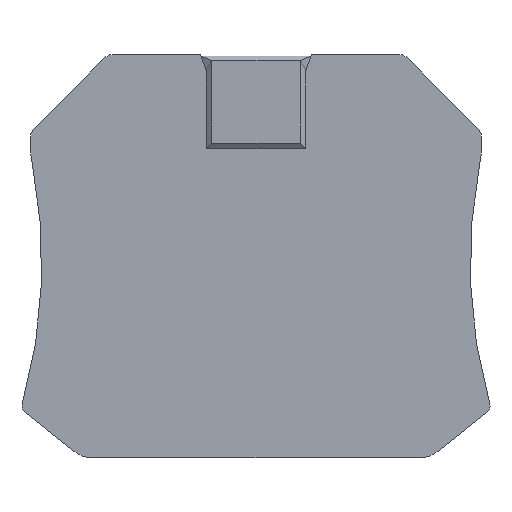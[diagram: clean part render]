
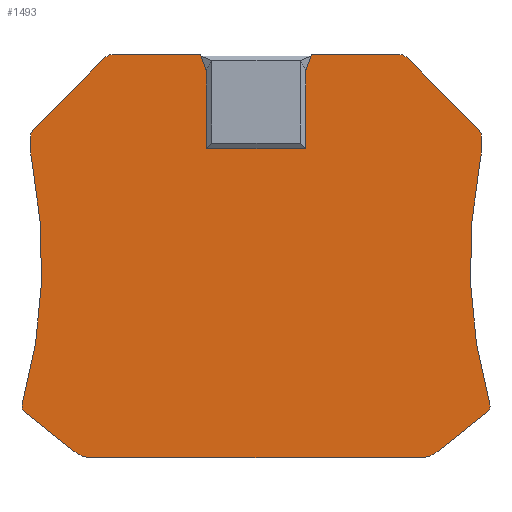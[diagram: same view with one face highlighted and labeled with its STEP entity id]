
A CAD part, front view. The second image highlights one B-rep face of the part: STEP entity #1493.
In plain terms, the highlighted planar face has unit normal (0, -1, 0).
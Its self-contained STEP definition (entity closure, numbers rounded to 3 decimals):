
#35=CARTESIAN_POINT('',(-6.5,-2.2,47.5));
#36=VERTEX_POINT('',#35);
#37=CARTESIAN_POINT('',(-16.786,-2.2,47.5));
#38=VERTEX_POINT('',#37);
#39=CARTESIAN_POINT('',(-6.5,-2.2,47.5));
#40=DIRECTION('',(-1.,0.,0.));
#41=VECTOR('',#40,10.286);
#42=LINE('',#39,#41);
#43=EDGE_CURVE('',#36,#38,#42,.T.);
#75=CARTESIAN_POINT('',(6.5,-2.2,47.5));
#76=VERTEX_POINT('',#75);
#85=CARTESIAN_POINT('',(16.786,-2.2,47.5));
#86=VERTEX_POINT('',#85);
#87=CARTESIAN_POINT('',(6.5,-2.2,47.5));
#88=DIRECTION('',(1.,0.,0.));
#89=VECTOR('',#88,10.286);
#90=LINE('',#87,#89);
#91=EDGE_CURVE('',#76,#86,#90,.T.);
#124=CARTESIAN_POINT('',(-17.493,-2.2,47.207));
#125=VERTEX_POINT('',#124);
#132=CARTESIAN_POINT('',(-16.786,-2.2,46.5));
#133=DIRECTION('',(-0.707,0.,0.707));
#134=DIRECTION('',(0.,1.,0.));
#135=AXIS2_PLACEMENT_3D('',#132,#134,#133);
#136=CIRCLE('',#135,1.);
#137=EDGE_CURVE('',#125,#38,#136,.T.);
#148=CARTESIAN_POINT('',(-26.007,-2.2,38.693));
#149=VERTEX_POINT('',#148);
#165=CARTESIAN_POINT('',(-17.493,-2.2,47.207));
#166=DIRECTION('',(-0.707,0.,-0.707));
#167=VECTOR('',#166,12.041);
#168=LINE('',#165,#167);
#169=EDGE_CURVE('',#125,#149,#168,.T.);
#179=CARTESIAN_POINT('',(-26.3,-2.2,37.986));
#180=VERTEX_POINT('',#179);
#181=CARTESIAN_POINT('',(-25.3,-2.2,37.986));
#182=DIRECTION('',(-0.707,0.,0.707));
#183=DIRECTION('',(0.,-1.,0.));
#184=AXIS2_PLACEMENT_3D('',#181,#183,#182);
#185=CIRCLE('',#184,1.);
#186=EDGE_CURVE('',#149,#180,#185,.T.);
#212=CARTESIAN_POINT('',(-26.3,-2.2,36.798));
#213=VERTEX_POINT('',#212);
#214=CARTESIAN_POINT('',(-26.3,-2.2,36.798));
#215=DIRECTION('',(0.,0.,1.));
#216=VECTOR('',#215,1.188);
#217=LINE('',#214,#216);
#218=EDGE_CURVE('',#213,#180,#217,.T.);
#243=CARTESIAN_POINT('',(-26.11,-2.2,34.856));
#244=VERTEX_POINT('',#243);
#245=CARTESIAN_POINT('',(-16.3,-2.2,36.798));
#246=DIRECTION('',(-1.,0.,0.));
#247=DIRECTION('',(0.,-1.,0.));
#248=AXIS2_PLACEMENT_3D('',#245,#247,#246);
#249=CIRCLE('',#248,10.);
#250=EDGE_CURVE('',#213,#244,#249,.T.);
#277=CARTESIAN_POINT('',(-27.252,-2.2,6.808));
#278=VERTEX_POINT('',#277);
#279=CARTESIAN_POINT('',(-84.968,-2.2,23.206));
#280=DIRECTION('',(0.962,0.,-0.273));
#281=DIRECTION('',(0.,-1.,0.));
#282=AXIS2_PLACEMENT_3D('',#279,#281,#280);
#283=CIRCLE('',#282,60.);
#284=EDGE_CURVE('',#278,#244,#283,.T.);
#311=CARTESIAN_POINT('',(-26.912,-2.2,5.751));
#312=VERTEX_POINT('',#311);
#319=CARTESIAN_POINT('',(-26.29,-2.2,6.534));
#320=DIRECTION('',(-0.622,0.,-0.783));
#321=DIRECTION('',(0.,1.,0.));
#322=AXIS2_PLACEMENT_3D('',#319,#321,#320);
#323=CIRCLE('',#322,1.);
#324=EDGE_CURVE('',#312,#278,#323,.T.);
#343=CARTESIAN_POINT('',(-21.117,-2.2,1.15));
#344=VERTEX_POINT('',#343);
#345=CARTESIAN_POINT('',(-21.117,-2.2,1.15));
#346=DIRECTION('',(-0.783,0.,0.622));
#347=VECTOR('',#346,7.399);
#348=LINE('',#345,#347);
#349=EDGE_CURVE('',#344,#312,#348,.T.);
#373=CARTESIAN_POINT('',(-19.252,-2.2,0.5));
#374=VERTEX_POINT('',#373);
#375=CARTESIAN_POINT('',(-19.252,-2.2,3.5));
#376=DIRECTION('',(0.,0.,-1.));
#377=DIRECTION('',(0.,1.,0.));
#378=AXIS2_PLACEMENT_3D('',#375,#377,#376);
#379=CIRCLE('',#378,3.);
#380=EDGE_CURVE('',#374,#344,#379,.T.);
#414=CARTESIAN_POINT('',(19.252,-2.2,0.5));
#415=VERTEX_POINT('',#414);
#422=CARTESIAN_POINT('',(19.252,-2.2,0.5));
#423=DIRECTION('',(-1.,0.,0.));
#424=VECTOR('',#423,38.504);
#425=LINE('',#422,#424);
#426=EDGE_CURVE('',#415,#374,#425,.T.);
#446=CARTESIAN_POINT('',(21.117,-2.2,1.15));
#447=VERTEX_POINT('',#446);
#454=CARTESIAN_POINT('',(19.252,-2.2,3.5));
#455=DIRECTION('',(0.622,0.,-0.783));
#456=DIRECTION('',(0.,1.,0.));
#457=AXIS2_PLACEMENT_3D('',#454,#456,#455);
#458=CIRCLE('',#457,3.);
#459=EDGE_CURVE('',#447,#415,#458,.T.);
#470=CARTESIAN_POINT('',(26.912,-2.2,5.751));
#471=VERTEX_POINT('',#470);
#487=CARTESIAN_POINT('',(26.912,-2.2,5.751));
#488=DIRECTION('',(-0.783,0.,-0.622));
#489=VECTOR('',#488,7.399);
#490=LINE('',#487,#489);
#491=EDGE_CURVE('',#471,#447,#490,.T.);
#503=CARTESIAN_POINT('',(27.252,-2.2,6.808));
#504=VERTEX_POINT('',#503);
#511=CARTESIAN_POINT('',(26.29,-2.2,6.534));
#512=DIRECTION('',(0.962,0.,0.273));
#513=DIRECTION('',(0.,1.,0.));
#514=AXIS2_PLACEMENT_3D('',#511,#513,#512);
#515=CIRCLE('',#514,1.);
#516=EDGE_CURVE('',#504,#471,#515,.T.);
#534=CARTESIAN_POINT('',(26.11,-2.2,34.856));
#535=VERTEX_POINT('',#534);
#552=CARTESIAN_POINT('',(84.968,-2.2,23.206));
#553=DIRECTION('',(-0.962,0.,-0.273));
#554=DIRECTION('',(0.,1.,0.));
#555=AXIS2_PLACEMENT_3D('',#552,#554,#553);
#556=CIRCLE('',#555,60.);
#557=EDGE_CURVE('',#504,#535,#556,.T.);
#567=CARTESIAN_POINT('',(26.3,-2.2,36.798));
#568=VERTEX_POINT('',#567);
#569=CARTESIAN_POINT('',(16.3,-2.2,36.798));
#570=DIRECTION('',(1.,0.,0.));
#571=DIRECTION('',(0.,1.,0.));
#572=AXIS2_PLACEMENT_3D('',#569,#571,#570);
#573=CIRCLE('',#572,10.);
#574=EDGE_CURVE('',#568,#535,#573,.T.);
#600=CARTESIAN_POINT('',(26.3,-2.2,37.986));
#601=VERTEX_POINT('',#600);
#617=CARTESIAN_POINT('',(26.3,-2.2,36.798));
#618=DIRECTION('',(0.,0.,1.));
#619=VECTOR('',#618,1.188);
#620=LINE('',#617,#619);
#621=EDGE_CURVE('',#568,#601,#620,.T.);
#631=CARTESIAN_POINT('',(26.007,-2.2,38.693));
#632=VERTEX_POINT('',#631);
#633=CARTESIAN_POINT('',(25.3,-2.2,37.986));
#634=DIRECTION('',(0.707,0.,0.707));
#635=DIRECTION('',(0.,1.,0.));
#636=AXIS2_PLACEMENT_3D('',#633,#635,#634);
#637=CIRCLE('',#636,1.);
#638=EDGE_CURVE('',#632,#601,#637,.T.);
#672=CARTESIAN_POINT('',(17.493,-2.2,47.207));
#673=VERTEX_POINT('',#672);
#680=CARTESIAN_POINT('',(17.493,-2.2,47.207));
#681=DIRECTION('',(0.707,0.,-0.707));
#682=VECTOR('',#681,12.041);
#683=LINE('',#680,#682);
#684=EDGE_CURVE('',#673,#632,#683,.T.);
#703=CARTESIAN_POINT('',(16.786,-2.2,46.5));
#704=DIRECTION('',(0.,0.,1.));
#705=DIRECTION('',(0.,1.,0.));
#706=AXIS2_PLACEMENT_3D('',#703,#705,#704);
#707=CIRCLE('',#706,1.);
#708=EDGE_CURVE('',#86,#673,#707,.T.);
#1280=CARTESIAN_POINT('',(5.8,-2.2,45.577));
#1281=VERTEX_POINT('',#1280);
#1282=CARTESIAN_POINT('',(5.8,-2.2,45.577));
#1283=DIRECTION('',(0.342,0.,0.94));
#1284=VECTOR('',#1283,2.047);
#1285=LINE('',#1282,#1284);
#1286=EDGE_CURVE('',#1281,#76,#1285,.T.);
#1400=CARTESIAN_POINT('',(-5.8,-2.2,45.577));
#1401=VERTEX_POINT('',#1400);
#1402=CARTESIAN_POINT('',(-5.8,-2.2,45.577));
#1403=DIRECTION('',(-0.342,0.,0.94));
#1404=VECTOR('',#1403,2.047);
#1405=LINE('',#1402,#1404);
#1406=EDGE_CURVE('',#1401,#36,#1405,.T.);
#1423=CARTESIAN_POINT('',(-1.112,-2.2,26.717));
#1424=DIRECTION('',(0.993,0.,0.122));
#1425=DIRECTION('',(0.,-1.,0.));
#1426=AXIS2_PLACEMENT_3D('',#1423,#1425,#1424);
#1427=PLANE('',#1426);
#1428=ORIENTED_EDGE('',*,*,#1406,.T.);
#1429=ORIENTED_EDGE('',*,*,#43,.T.);
#1430=ORIENTED_EDGE('',*,*,#137,.F.);
#1431=ORIENTED_EDGE('',*,*,#169,.T.);
#1432=ORIENTED_EDGE('',*,*,#186,.T.);
#1433=ORIENTED_EDGE('',*,*,#218,.F.);
#1434=ORIENTED_EDGE('',*,*,#250,.T.);
#1435=ORIENTED_EDGE('',*,*,#284,.F.);
#1436=ORIENTED_EDGE('',*,*,#324,.F.);
#1437=ORIENTED_EDGE('',*,*,#349,.F.);
#1438=ORIENTED_EDGE('',*,*,#380,.F.);
#1439=ORIENTED_EDGE('',*,*,#426,.F.);
#1440=ORIENTED_EDGE('',*,*,#459,.F.);
#1441=ORIENTED_EDGE('',*,*,#491,.F.);
#1442=ORIENTED_EDGE('',*,*,#516,.F.);
#1443=ORIENTED_EDGE('',*,*,#557,.T.);
#1444=ORIENTED_EDGE('',*,*,#574,.F.);
#1445=ORIENTED_EDGE('',*,*,#621,.T.);
#1446=ORIENTED_EDGE('',*,*,#638,.F.);
#1447=ORIENTED_EDGE('',*,*,#684,.F.);
#1448=ORIENTED_EDGE('',*,*,#708,.F.);
#1449=ORIENTED_EDGE('',*,*,#91,.F.);
#1450=ORIENTED_EDGE('',*,*,#1286,.F.);
#1451=CARTESIAN_POINT('',(5.8,-2.2,36.7));
#1452=VERTEX_POINT('',#1451);
#1453=CARTESIAN_POINT('',(5.8,-2.2,45.577));
#1454=DIRECTION('',(0.,0.,-1.));
#1455=VECTOR('',#1454,8.877);
#1456=LINE('',#1453,#1455);
#1457=EDGE_CURVE('',#1281,#1452,#1456,.T.);
#1458=ORIENTED_EDGE('E26',*,*,#1457,.T.);
#1459=CARTESIAN_POINT('',(5.6,-2.2,36.5));
#1460=VERTEX_POINT('',#1459);
#1461=CARTESIAN_POINT('',(5.6,-2.2,36.7));
#1462=DIRECTION('',(1.,0.,0.));
#1463=DIRECTION('',(0.,1.,0.));
#1464=AXIS2_PLACEMENT_3D('',#1461,#1463,#1462);
#1465=CIRCLE('',#1464,0.2);
#1466=EDGE_CURVE('',#1452,#1460,#1465,.T.);
#1467=ORIENTED_EDGE('E27',*,*,#1466,.T.);
#1468=CARTESIAN_POINT('',(-5.6,-2.2,36.5));
#1469=VERTEX_POINT('',#1468);
#1470=CARTESIAN_POINT('',(5.6,-2.2,36.5));
#1471=DIRECTION('',(-1.,0.,0.));
#1472=VECTOR('',#1471,11.2);
#1473=LINE('',#1470,#1472);
#1474=EDGE_CURVE('',#1460,#1469,#1473,.T.);
#1475=ORIENTED_EDGE('E28',*,*,#1474,.T.);
#1476=CARTESIAN_POINT('',(-5.8,-2.2,36.7));
#1477=VERTEX_POINT('',#1476);
#1478=CARTESIAN_POINT('',(-5.6,-2.2,36.7));
#1479=DIRECTION('',(-1.,0.,0.));
#1480=DIRECTION('',(0.,-1.,0.));
#1481=AXIS2_PLACEMENT_3D('',#1478,#1480,#1479);
#1482=CIRCLE('',#1481,0.2);
#1483=EDGE_CURVE('',#1477,#1469,#1482,.T.);
#1484=ORIENTED_EDGE('E29',*,*,#1483,.F.);
#1485=CARTESIAN_POINT('',(-5.8,-2.2,45.577));
#1486=DIRECTION('',(0.,0.,-1.));
#1487=VECTOR('',#1486,8.877);
#1488=LINE('',#1485,#1487);
#1489=EDGE_CURVE('',#1401,#1477,#1488,.T.);
#1490=ORIENTED_EDGE('E30',*,*,#1489,.F.);
#1491=EDGE_LOOP('',(#1428,#1429,#1430,#1431,#1432,#1433,#1434,#1435,#1436,#1437,#1438,#1439,#1440,#1441,#1442,#1443,#1444,#1445,#1446,#1447,#1448,#1449,#1450,#1458,#1467,#1475,#1484,#1490));
#1492=FACE_OUTER_BOUND('',#1491,.T.);
#1493=ADVANCED_FACE('F182',(#1492),#1427,.T.);
